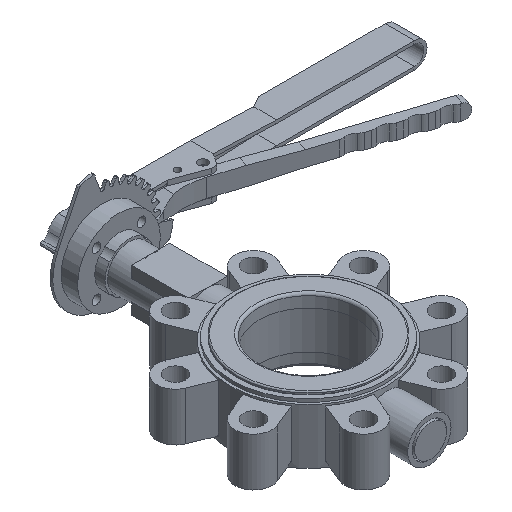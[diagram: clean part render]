
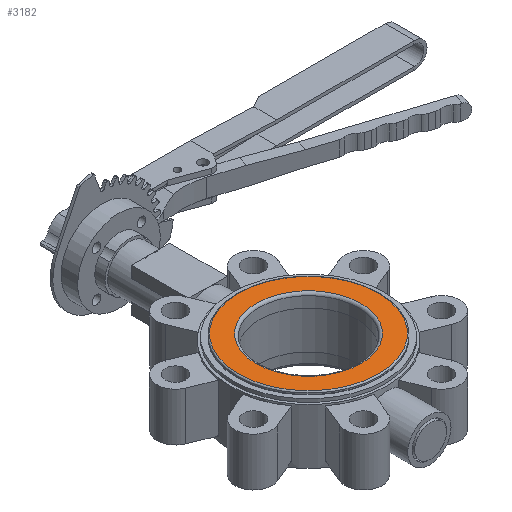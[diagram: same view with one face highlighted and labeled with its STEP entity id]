
A CAD part, isometric view. The second image highlights one B-rep face of the part: STEP entity #3182.
In plain terms, the highlighted planar face has unit normal (0, 0, 1) as drawn and (-1, 0, 0) by its records, which use the part's own axes.
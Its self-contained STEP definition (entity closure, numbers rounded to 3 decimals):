
#255 = DIRECTION ( 'NONE',  ( 0., 0., -1. ) ) ;
#291 = PLANE ( 'NONE',  #6491 ) ;
#1102 = DIRECTION ( 'NONE',  ( 0., 0., 1. ) ) ;
#1161 = VERTEX_POINT ( 'NONE', #8817 ) ;
#1741 = FACE_OUTER_BOUND ( 'NONE', #2529, .T. ) ;
#2529 = EDGE_LOOP ( 'NONE', ( #10152 ) ) ;
#2933 = CIRCLE ( 'NONE', #3527, 55. ) ;
#2988 = AXIS2_PLACEMENT_3D ( 'NONE', #8136, #3420, #4235 ) ;
#3182 = ADVANCED_FACE ( 'NONE', ( #7112, #1741 ), #291, .F. ) ;
#3420 = DIRECTION ( 'NONE',  ( -1., 0., 0. ) ) ;
#3527 = AXIS2_PLACEMENT_3D ( 'NONE', #5780, #4291, #1102 ) ;
#4235 = DIRECTION ( 'NONE',  ( 0., 0., 1. ) ) ;
#4291 = DIRECTION ( 'NONE',  ( -1., 0., 0. ) ) ;
#4778 = CIRCLE ( 'NONE', #2988, 41.14 ) ;
#4909 = EDGE_CURVE ( 'NONE', #1161, #1161, #2933, .T. ) ;
#5574 = EDGE_CURVE ( 'NONE', #8272, #8272, #4778, .T. ) ;
#5780 = CARTESIAN_POINT ( 'NONE',  ( -25., 0., 0. ) ) ;
#6491 = AXIS2_PLACEMENT_3D ( 'NONE', #8134, #8032, #255 ) ;
#7038 = EDGE_LOOP ( 'NONE', ( #8263 ) ) ;
#7112 = FACE_BOUND ( 'NONE', #7038, .T. ) ;
#7365 = CARTESIAN_POINT ( 'NONE',  ( -25., 0., 41.14 ) ) ;
#8032 = DIRECTION ( 'NONE',  ( 1., 0., 0. ) ) ;
#8134 = CARTESIAN_POINT ( 'NONE',  ( -25., 0., 0. ) ) ;
#8136 = CARTESIAN_POINT ( 'NONE',  ( -25., 0., 0. ) ) ;
#8263 = ORIENTED_EDGE ( 'NONE', *, *, #5574, .F. ) ;
#8272 = VERTEX_POINT ( 'NONE', #7365 ) ;
#8817 = CARTESIAN_POINT ( 'NONE',  ( -25., 0., 55. ) ) ;
#10152 = ORIENTED_EDGE ( 'NONE', *, *, #4909, .T. ) ;
